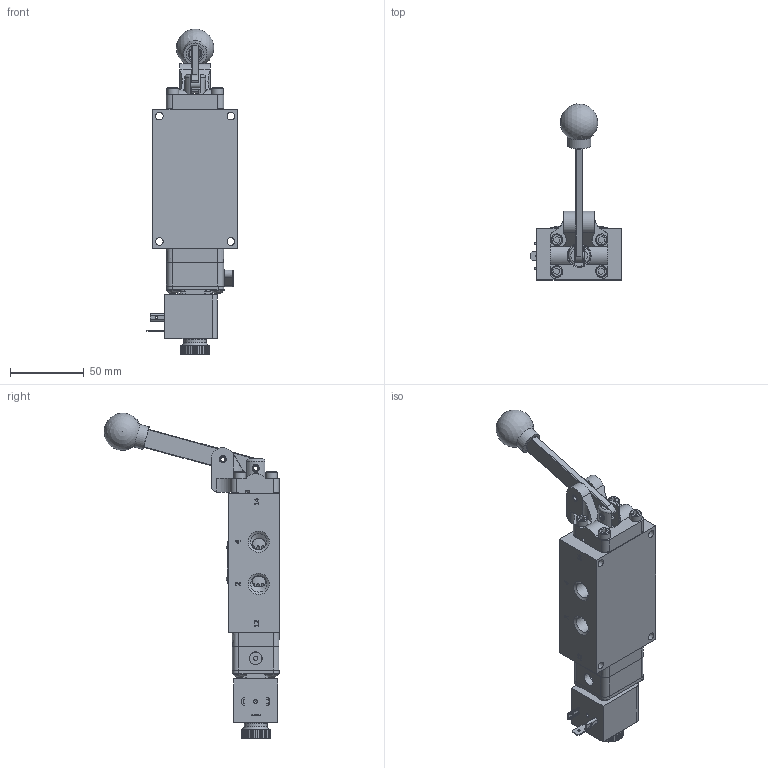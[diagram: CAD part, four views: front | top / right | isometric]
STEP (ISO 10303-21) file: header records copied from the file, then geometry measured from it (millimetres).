
FILE_DESCRIPTION(/* description */ (''),/* implementation_level */ '2;1');
FILE_NAME(/* name */ 'ESAH2HOLZ.stp',/* time_stamp */ '2026-09-20T09:06:16-04:00',/* author */ ('rmckenna'),/* organization */ (''),/* preprocessor_version */ 'ST-DEVELOPER v20.2',/* originating_system */ 'Autodesk Inventor 2027',/* authorisation */ '');
FILE_SCHEMA (('AUTOMOTIVE_DESIGN { 1 0 10303 214 3 1 1 }'));
Products named in the file (1): Part63
Bounding box: 61.36 x 119.04 x 220.65 mm (x, y, z)
Volume: 257196.9 mm3; surface area: 85062.4 mm2
Topology: 2 solids, 30 shells, 1989 faces, 5050 edges, 3246 vertices
Faces by surface type: plane 921, cylinder 512, cone 270, torus 156, bspline 123, sphere 7
Full cylindrical faces by diameter (mm): 1.3 x1, 1.397 x1, 1.5 x1, 1.651 x2, 2.032 x8, 2.07 x2, 2.261 x2, 2.35 x4, 2.5 x2, 2.778 x2, 2.8 x1, 3 x4, 3.048 x2, 3.175 x1, 3.4 x1, 3.683 x12, 3.912 x3, 4.191 x2, 4.394 x1, 4.75 x2, 4.763 x2, 4.826 x8, 4.978 x4, 5.055 x1, 5.15 x4, 5.156 x12, 5.5 x1, 6.65 x1, 7.315 x1, 7.798 x1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
Entity records: 66988 total; most frequent: CARTESIAN_POINT 17020, ORIENTED_EDGE 10064, DIRECTION 9783, EDGE_CURVE 5032, AXIS2_PLACEMENT_3D 3595, VERTEX_POINT 3245, LINE 2593, VECTOR 2593
